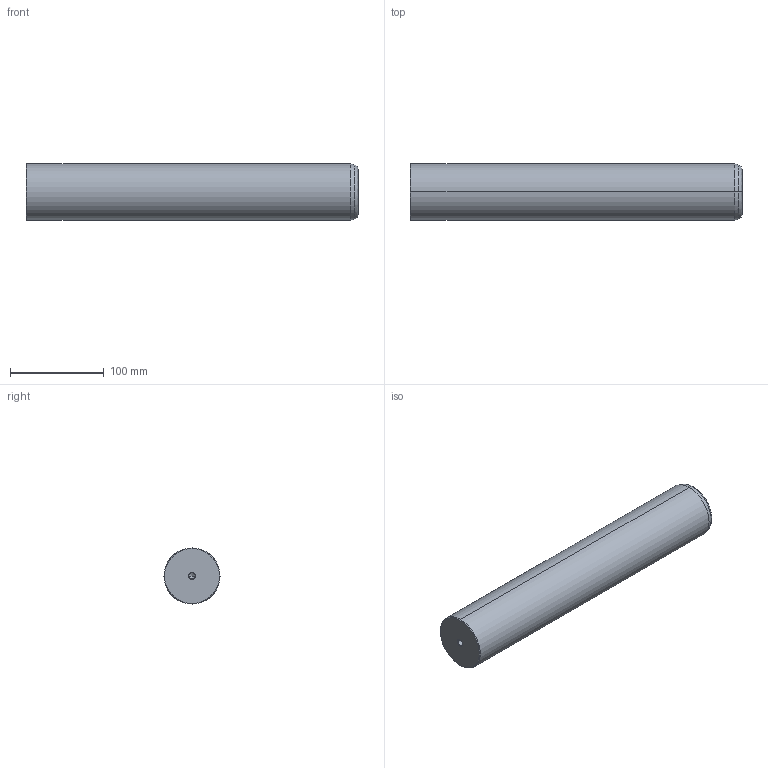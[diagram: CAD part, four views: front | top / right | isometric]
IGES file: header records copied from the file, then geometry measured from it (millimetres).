
Start section: START RECORD GO HERE.
Global section: file name: 720-60x355.igs; native system: DASSAULT SYSTEMES CATIA V5 R20 - www.3ds.com; preprocessor: CATIA Version 5 Release 20 ; author: Utente; organization: NB04-ASUS; date: 20201230.223315; units: millimetre
Bounding box: 355 x 60 x 60 mm (x, y, z)
Surface area: 72891 mm2 (no closed solid volume)
Topology: 0 solids, 0 shells, 22 faces, 120 edges, 116 vertices
Faces by surface type: revolution 20, plane 2
